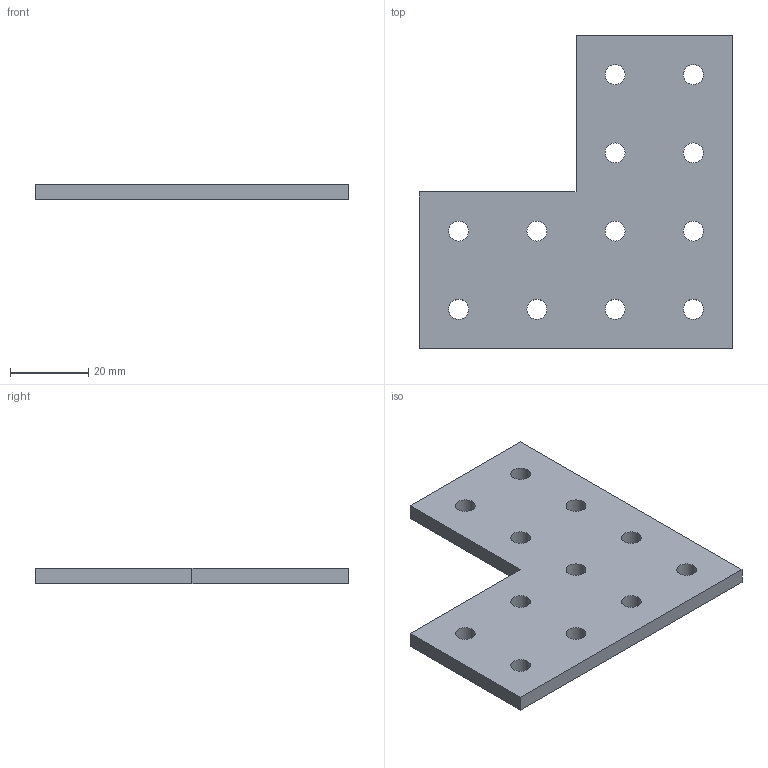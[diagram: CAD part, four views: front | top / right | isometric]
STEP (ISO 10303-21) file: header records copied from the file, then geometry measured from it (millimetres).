
FILE_DESCRIPTION(/* description */ (''),/* implementation_level */ '2;1');
FILE_NAME(/* name */ 'Plate Connector - 90 Degree - Double Slot - 20 Series - Aluminium - Black.step',/* time_stamp */ '2025-10-18T03:41:08+03:00',/* author */ (''),/* organization */ (''),/* preprocessor_version */ 'ST-DEVELOPER v20.1',/* originating_system */ 'Autodesk Translation Framework v14.17.0.0',/* authorisation */ '');
FILE_SCHEMA (('AUTOMOTIVE_DESIGN { 1 0 10303 214 3 1 1 }'));
Length unit declared in the file: millimetre
Products named in the file (1): Double-90-Degree-Joining-Plate
Bounding box: 80 x 80 x 4 mm (x, y, z)
Volume: 18219.4 mm3; surface area: 11158.8 mm2
Topology: 1 solids, 1 shells, 20 faces, 54 edges, 36 vertices
Faces by surface type: cylinder 12, plane 8
Full cylindrical faces by diameter (mm): 5.1 x12
Entity records: 730 total; most frequent: DIRECTION 120, CARTESIAN_POINT 111, ORIENTED_EDGE 108, EDGE_CURVE 54, AXIS2_PLACEMENT_3D 45, EDGE_LOOP 44, VERTEX_POINT 36, LINE 30
